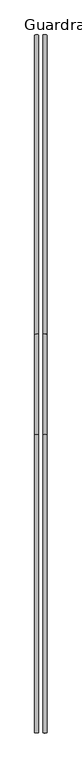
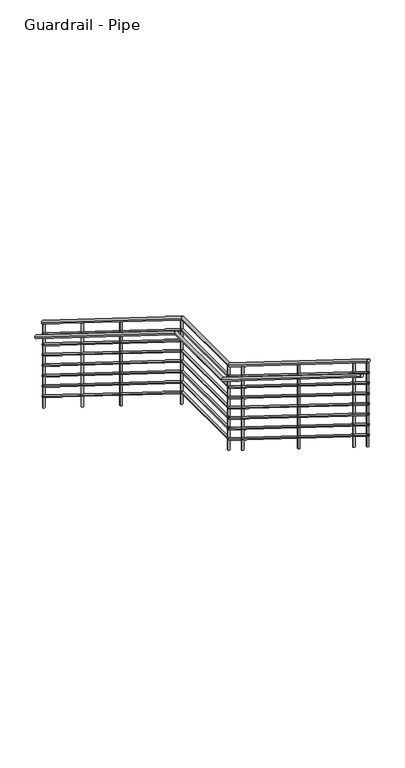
"""IFC4 building model written with IfcOpenShell, lengths in millimetres: railing geometry, Guardrail - Pipe."""

from ifc_helpers import new_model, si_unit, point, frame, frame_2d, origin, place, context, project, spatial, circle_curve, ellipse_curve, trimmed, segment, composite_curve, outline, extrude, source, transform, mapped, element, save
from ifc_brep_helpers import plane_surface, cylinder_surface, advanced_brep


def guardrail_pipe_c5471f49(model_context):
    return source(origin(), model_context, "Body", "SolidModel", [
        advanced_brep(
        [(-2187.3939612, 2884.909643, -2439.0768639), (-2225.4939612, 2884.909643, -2439.0768639), (-2187.3939612, 85.4582154, -693.9642857), (-2225.4939612, 85.4582154, -693.9642857), (-2187.3939612, -854.3417846, -693.9642857), (-2225.4939612, -854.3417846, -693.9642857), (-2187.3939612, -3642.890357, 1044.3517075), (-2225.4939612, -3642.890357, 1044.3517075)],
        [
            (0, 1, ellipse_curve(frame((-2206.4439612, 2884.909643, -2439.0768639), z_axis=(0.0, 1.0, 0.0), x_axis=(0.0, 0.0, -1.0)), 22.4482925, 19.05)),
            (1, 0, ellipse_curve(frame((-2206.4439612, 2884.909643, -2439.0768639), z_axis=(0.0, 1.0, 0.0), x_axis=(0.0, 0.0, -1.0)), 22.4482925, 19.05)),
            (0, 2),
            (2, 3, ellipse_curve(frame((-2206.4439612, 85.4582154, -693.9642857), z_axis=(0.0, 0.9614096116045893, -0.2751209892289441), x_axis=(0.0, -0.27512098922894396, -0.9614096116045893)), 19.8146552, 19.05)),
            (3, 1),
            (3, 2, ellipse_curve(frame((-2206.4439612, 85.4582154, -693.9642857), z_axis=(0.0, 0.9614096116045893, -0.2751209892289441), x_axis=(0.0, -0.27512098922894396, -0.9614096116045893)), 19.8146552, 19.05)),
            (2, 4),
            (4, 5, ellipse_curve(frame((-2206.4439612, -854.3417846, -693.9642857), z_axis=(0.0, 0.9614096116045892, -0.27512098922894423), x_axis=(0.0, 0.2751209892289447, 0.9614096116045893)), 19.8146552, 19.05)),
            (5, 3),
            (5, 4, ellipse_curve(frame((-2206.4439612, -854.3417846, -693.9642857), z_axis=(0.0, 0.9614096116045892, -0.27512098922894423), x_axis=(0.0, 0.2751209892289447, 0.9614096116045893)), 19.8146552, 19.05)),
            (6, 7, ellipse_curve(frame((-2206.4439612, -3642.890357, 1044.3517075), z_axis=(0.0, -1.0, 0.0), x_axis=(0.0, 0.0, -1.0)), 22.4482925, 19.05)),
            (7, 6, ellipse_curve(frame((-2206.4439612, -3642.890357, 1044.3517075), z_axis=(0.0, -1.0, 0.0), x_axis=(0.0, 0.0, -1.0)), 22.4482925, 19.05)),
            (4, 6),
            (7, 5),
        ],
        [
            plane_surface(frame((-2206.4439612, 2884.909643, -2416.6285714), z_axis=(0.0, 1.0, 0.0), x_axis=(0.0, 0.0, -1.0))),
            cylinder_surface(frame((-2206.4439612, 2874.832042, -2432.794723), z_axis=(0.0, 0.8486168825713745, -0.5290079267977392), x_axis=(-1.0, 0.0, 0.0)), 19.05),
            cylinder_surface(frame((-2206.4439612, 90.909643, -693.9642857), z_axis=(0.0, 1.0, 0.0), x_axis=(-1.0, 0.0, 0.0)), 19.05),
            plane_surface(frame((-2206.4439612, -3642.890357, 1066.8), z_axis=(0.0, -1.0, 0.0), x_axis=(0.0, 0.0, -1.0))),
            cylinder_surface(frame((-2206.4439612, -858.967958, -691.0804373), z_axis=(0.0, 0.8486168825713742, -0.5290079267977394), x_axis=(-1.0, 0.0, 0.0)), 19.05),
        ],
        [
            (0, [[1, 2]]),
            (1, [[-1, 3, 4, 5]]),
            (1, [[-2, -5, 6, -3]]),
            (2, [[-4, 7, 8, 9]]),
            (2, [[-6, -9, 10, -7]]),
            (3, [[11, 12]]),
            (4, [[-8, 13, -12, 14]]),
            (4, [[-10, -14, -11, -13]]),
        ],
    ),
        advanced_brep(
        [(-2193.7439612, 2884.909643, -2583.9940998), (-2219.1439612, 2884.909643, -2583.9940998), (-2193.7439612, 87.2753579, -840.0142857), (-2219.1439612, 87.2753579, -840.0142857), (-2193.7439612, -852.5246421, -840.0142857), (-2219.1439612, -852.5246421, -840.0142857), (-2193.7439612, -3642.890357, 899.4344717), (-2219.1439612, -3642.890357, 899.4344717)],
        [
            (0, 1, ellipse_curve(frame((-2206.4439612, 2884.909643, -2583.9940998), z_axis=(0.0, 1.0, 0.0), x_axis=(0.0, 0.0, -1.0)), 14.9655283, 12.7)),
            (1, 0, ellipse_curve(frame((-2206.4439612, 2884.909643, -2583.9940998), z_axis=(0.0, 1.0, 0.0), x_axis=(0.0, 0.0, -1.0)), 14.9655283, 12.7)),
            (0, 2),
            (2, 3, ellipse_curve(frame((-2206.4439612, 87.2753579, -840.0142857), z_axis=(0.0, 0.9614096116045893, -0.2751209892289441), x_axis=(0.0, -0.27512098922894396, -0.9614096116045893)), 13.2097702, 12.7)),
            (3, 1),
            (3, 2, ellipse_curve(frame((-2206.4439612, 87.2753579, -840.0142857), z_axis=(0.0, 0.9614096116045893, -0.2751209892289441), x_axis=(0.0, -0.27512098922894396, -0.9614096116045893)), 13.2097702, 12.7)),
            (2, 4),
            (4, 5, ellipse_curve(frame((-2206.4439612, -852.5246421, -840.0142857), z_axis=(0.0, 0.9614096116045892, -0.27512098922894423), x_axis=(0.0, 0.2751209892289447, 0.9614096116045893)), 13.2097702, 12.7)),
            (5, 3),
            (5, 4, ellipse_curve(frame((-2206.4439612, -852.5246421, -840.0142857), z_axis=(0.0, 0.9614096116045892, -0.27512098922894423), x_axis=(0.0, 0.2751209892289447, 0.9614096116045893)), 13.2097702, 12.7)),
            (6, 7, ellipse_curve(frame((-2206.4439612, -3642.890357, 899.4344717), z_axis=(0.0, -1.0, 0.0), x_axis=(0.0, 0.0, -1.0)), 14.9655283, 12.7)),
            (7, 6, ellipse_curve(frame((-2206.4439612, -3642.890357, 899.4344717), z_axis=(0.0, -1.0, 0.0), x_axis=(0.0, 0.0, -1.0)), 14.9655283, 12.7)),
            (4, 6),
            (7, 5),
        ],
        [
            plane_surface(frame((-2206.4439612, 2884.909643, -2569.0285714), z_axis=(0.0, 1.0, 0.0), x_axis=(0.0, 0.0, -1.0))),
            cylinder_surface(frame((-2206.4439612, 2878.1912423, -2579.8060058), z_axis=(0.0, 0.8486168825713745, -0.5290079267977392), x_axis=(-1.0, 0.0, 0.0)), 12.7),
            cylinder_surface(frame((-2206.4439612, 90.909643, -840.0142857), z_axis=(0.0, 1.0, 0.0), x_axis=(-1.0, 0.0, 0.0)), 12.7),
            plane_surface(frame((-2206.4439612, -3642.890357, 914.4), z_axis=(0.0, -1.0, 0.0), x_axis=(0.0, 0.0, -1.0))),
            cylinder_surface(frame((-2206.4439612, -855.6087577, -838.0917201), z_axis=(0.0, 0.8486168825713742, -0.5290079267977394), x_axis=(-1.0, 0.0, 0.0)), 12.7),
        ],
        [
            (0, [[1, 2]]),
            (1, [[-1, 3, 4, 5]]),
            (1, [[-2, -5, 6, -3]]),
            (2, [[-4, 7, 8, 9]]),
            (2, [[-6, -9, 10, -7]]),
            (3, [[11, 12]]),
            (4, [[-8, 13, -12, 14]]),
            (4, [[-10, -14, -11, -13]]),
        ],
    ),
        advanced_brep(
        [(-2263.5939612, 2884.909643, -2591.4768639), (-2301.6939612, 2884.909643, -2591.4768639), (-2263.5939612, 85.4582154, -846.3642857), (-2301.6939612, 85.4582154, -846.3642857), (-2263.5939612, -854.3417846, -846.3642857), (-2301.6939612, -854.3417846, -846.3642857), (-2263.5939612, -3642.890357, 891.9517075), (-2301.6939612, -3642.890357, 891.9517075)],
        [
            (0, 1, ellipse_curve(frame((-2282.6439612, 2884.909643, -2591.4768639), z_axis=(0.0, 1.0, 0.0), x_axis=(0.0, 0.0, -1.0)), 22.4482925, 19.05)),
            (1, 0, ellipse_curve(frame((-2282.6439612, 2884.909643, -2591.4768639), z_axis=(0.0, 1.0, 0.0), x_axis=(0.0, 0.0, -1.0)), 22.4482925, 19.05)),
            (0, 2),
            (2, 3, ellipse_curve(frame((-2282.6439612, 85.4582154, -846.3642857), z_axis=(0.0, 0.9614096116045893, -0.2751209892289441), x_axis=(0.0, -0.27512098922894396, -0.9614096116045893)), 19.8146552, 19.05)),
            (3, 1),
            (3, 2, ellipse_curve(frame((-2282.6439612, 85.4582154, -846.3642857), z_axis=(0.0, 0.9614096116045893, -0.2751209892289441), x_axis=(0.0, -0.27512098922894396, -0.9614096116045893)), 19.8146552, 19.05)),
            (2, 4),
            (4, 5, ellipse_curve(frame((-2282.6439612, -854.3417846, -846.3642857), z_axis=(0.0, 0.9614096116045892, -0.27512098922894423), x_axis=(0.0, 0.2751209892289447, 0.9614096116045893)), 19.8146552, 19.05)),
            (5, 3),
            (5, 4, ellipse_curve(frame((-2282.6439612, -854.3417846, -846.3642857), z_axis=(0.0, 0.9614096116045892, -0.27512098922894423), x_axis=(0.0, 0.2751209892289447, 0.9614096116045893)), 19.8146552, 19.05)),
            (6, 7, ellipse_curve(frame((-2282.6439612, -3642.890357, 891.9517075), z_axis=(0.0, -1.0, 0.0), x_axis=(0.0, 0.0, -1.0)), 22.4482925, 19.05)),
            (7, 6, ellipse_curve(frame((-2282.6439612, -3642.890357, 891.9517075), z_axis=(0.0, -1.0, 0.0), x_axis=(0.0, 0.0, -1.0)), 22.4482925, 19.05)),
            (4, 6),
            (7, 5),
        ],
        [
            plane_surface(frame((-2282.6439612, 2884.909643, -2569.0285714), z_axis=(0.0, 1.0, 0.0), x_axis=(0.0, 0.0, -1.0))),
            cylinder_surface(frame((-2282.6439612, 2874.832042, -2585.194723), z_axis=(0.0, 0.8486168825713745, -0.5290079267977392), x_axis=(-1.0, 0.0, 0.0)), 19.05),
            cylinder_surface(frame((-2282.6439612, 90.909643, -846.3642857), z_axis=(0.0, 1.0, 0.0), x_axis=(-1.0, 0.0, 0.0)), 19.05),
            plane_surface(frame((-2282.6439612, -3642.890357, 914.4), z_axis=(0.0, -1.0, 0.0), x_axis=(0.0, 0.0, -1.0))),
            cylinder_surface(frame((-2282.6439612, -858.967958, -843.4804373), z_axis=(0.0, 0.8486168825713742, -0.5290079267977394), x_axis=(-1.0, 0.0, 0.0)), 19.05),
        ],
        [
            (0, [[1, 2]]),
            (1, [[-1, 3, 4, 5]]),
            (1, [[-2, -5, 6, -3]]),
            (2, [[-4, 7, 8, 9]]),
            (2, [[-6, -9, 10, -7]]),
            (3, [[11, 12]]),
            (4, [[-8, 13, -12, 14]]),
            (4, [[-10, -14, -11, -13]]),
        ],
    ),
        advanced_brep(
        [(-2193.7439612, 2884.909643, -2710.9940998), (-2219.1439612, 2884.909643, -2710.9940998), (-2193.7439612, 87.2753579, -967.0142857), (-2219.1439612, 87.2753579, -967.0142857), (-2193.7439612, -852.5246421, -967.0142857), (-2219.1439612, -852.5246421, -967.0142857), (-2193.7439612, -3642.890357, 772.4344717), (-2219.1439612, -3642.890357, 772.4344717)],
        [
            (0, 1, ellipse_curve(frame((-2206.4439612, 2884.909643, -2710.9940998), z_axis=(0.0, 1.0, 0.0), x_axis=(0.0, 0.0, -1.0)), 14.9655283, 12.7)),
            (1, 0, ellipse_curve(frame((-2206.4439612, 2884.909643, -2710.9940998), z_axis=(0.0, 1.0, 0.0), x_axis=(0.0, 0.0, -1.0)), 14.9655283, 12.7)),
            (0, 2),
            (2, 3, ellipse_curve(frame((-2206.4439612, 87.2753579, -967.0142857), z_axis=(0.0, 0.9614096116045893, -0.2751209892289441), x_axis=(0.0, -0.27512098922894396, -0.9614096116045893)), 13.2097702, 12.7)),
            (3, 1),
            (3, 2, ellipse_curve(frame((-2206.4439612, 87.2753579, -967.0142857), z_axis=(0.0, 0.9614096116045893, -0.2751209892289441), x_axis=(0.0, -0.27512098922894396, -0.9614096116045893)), 13.2097702, 12.7)),
            (2, 4),
            (4, 5, ellipse_curve(frame((-2206.4439612, -852.5246421, -967.0142857), z_axis=(0.0, 0.9614096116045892, -0.27512098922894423), x_axis=(0.0, 0.2751209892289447, 0.9614096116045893)), 13.2097702, 12.7)),
            (5, 3),
            (5, 4, ellipse_curve(frame((-2206.4439612, -852.5246421, -967.0142857), z_axis=(0.0, 0.9614096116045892, -0.27512098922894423), x_axis=(0.0, 0.2751209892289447, 0.9614096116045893)), 13.2097702, 12.7)),
            (6, 7, ellipse_curve(frame((-2206.4439612, -3642.890357, 772.4344717), z_axis=(0.0, -1.0, 0.0), x_axis=(0.0, 0.0, -1.0)), 14.9655283, 12.7)),
            (7, 6, ellipse_curve(frame((-2206.4439612, -3642.890357, 772.4344717), z_axis=(0.0, -1.0, 0.0), x_axis=(0.0, 0.0, -1.0)), 14.9655283, 12.7)),
            (4, 6),
            (7, 5),
        ],
        [
            plane_surface(frame((-2206.4439612, 2884.909643, -2696.0285714), z_axis=(0.0, 1.0, 0.0), x_axis=(0.0, 0.0, -1.0))),
            cylinder_surface(frame((-2206.4439612, 2878.1912423, -2706.8060058), z_axis=(0.0, 0.8486168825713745, -0.5290079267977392), x_axis=(-1.0, 0.0, 0.0)), 12.7),
            cylinder_surface(frame((-2206.4439612, 90.909643, -967.0142857), z_axis=(0.0, 1.0, 0.0), x_axis=(-1.0, 0.0, 0.0)), 12.7),
            plane_surface(frame((-2206.4439612, -3642.890357, 787.4), z_axis=(0.0, -1.0, 0.0), x_axis=(0.0, 0.0, -1.0))),
            cylinder_surface(frame((-2206.4439612, -855.6087577, -965.0917201), z_axis=(0.0, 0.8486168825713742, -0.5290079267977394), x_axis=(-1.0, 0.0, 0.0)), 12.7),
        ],
        [
            (0, [[1, 2]]),
            (1, [[-1, 3, 4, 5]]),
            (1, [[-2, -5, 6, -3]]),
            (2, [[-4, 7, 8, 9]]),
            (2, [[-6, -9, 10, -7]]),
            (3, [[11, 12]]),
            (4, [[-8, 13, -12, 14]]),
            (4, [[-10, -14, -11, -13]]),
        ],
    ),
        advanced_brep(
        [(-2193.7439612, 2884.909643, -2837.9940998), (-2219.1439612, 2884.909643, -2837.9940998), (-2193.7439612, 87.2753579, -1094.0142857), (-2219.1439612, 87.2753579, -1094.0142857), (-2193.7439612, -852.5246421, -1094.0142857), (-2219.1439612, -852.5246421, -1094.0142857), (-2193.7439612, -3642.890357, 645.4344717), (-2219.1439612, -3642.890357, 645.4344717)],
        [
            (0, 1, ellipse_curve(frame((-2206.4439612, 2884.909643, -2837.9940998), z_axis=(0.0, 1.0, 0.0), x_axis=(0.0, 0.0, -1.0)), 14.9655283, 12.7)),
            (1, 0, ellipse_curve(frame((-2206.4439612, 2884.909643, -2837.9940998), z_axis=(0.0, 1.0, 0.0), x_axis=(0.0, 0.0, -1.0)), 14.9655283, 12.7)),
            (0, 2),
            (2, 3, ellipse_curve(frame((-2206.4439612, 87.2753579, -1094.0142857), z_axis=(0.0, 0.9614096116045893, -0.2751209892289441), x_axis=(0.0, -0.27512098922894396, -0.9614096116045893)), 13.2097702, 12.7)),
            (3, 1),
            (3, 2, ellipse_curve(frame((-2206.4439612, 87.2753579, -1094.0142857), z_axis=(0.0, 0.9614096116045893, -0.2751209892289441), x_axis=(0.0, -0.27512098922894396, -0.9614096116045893)), 13.2097702, 12.7)),
            (2, 4),
            (4, 5, ellipse_curve(frame((-2206.4439612, -852.5246421, -1094.0142857), z_axis=(0.0, 0.9614096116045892, -0.27512098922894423), x_axis=(0.0, 0.2751209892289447, 0.9614096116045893)), 13.2097702, 12.7)),
            (5, 3),
            (5, 4, ellipse_curve(frame((-2206.4439612, -852.5246421, -1094.0142857), z_axis=(0.0, 0.9614096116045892, -0.27512098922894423), x_axis=(0.0, 0.2751209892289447, 0.9614096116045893)), 13.2097702, 12.7)),
            (6, 7, ellipse_curve(frame((-2206.4439612, -3642.890357, 645.4344717), z_axis=(0.0, -1.0, 0.0), x_axis=(0.0, 0.0, -1.0)), 14.9655283, 12.7)),
            (7, 6, ellipse_curve(frame((-2206.4439612, -3642.890357, 645.4344717), z_axis=(0.0, -1.0, 0.0), x_axis=(0.0, 0.0, -1.0)), 14.9655283, 12.7)),
            (4, 6),
            (7, 5),
        ],
        [
            plane_surface(frame((-2206.4439612, 2884.909643, -2823.0285714), z_axis=(0.0, 1.0, 0.0), x_axis=(0.0, 0.0, -1.0))),
            cylinder_surface(frame((-2206.4439612, 2878.1912423, -2833.8060058), z_axis=(0.0, 0.8486168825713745, -0.5290079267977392), x_axis=(-1.0, 0.0, 0.0)), 12.7),
            cylinder_surface(frame((-2206.4439612, 90.909643, -1094.0142857), z_axis=(0.0, 1.0, 0.0), x_axis=(-1.0, 0.0, 0.0)), 12.7),
            plane_surface(frame((-2206.4439612, -3642.890357, 660.4), z_axis=(0.0, -1.0, 0.0), x_axis=(0.0, 0.0, -1.0))),
            cylinder_surface(frame((-2206.4439612, -855.6087577, -1092.0917201), z_axis=(0.0, 0.8486168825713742, -0.5290079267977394), x_axis=(-1.0, 0.0, 0.0)), 12.7),
        ],
        [
            (0, [[1, 2]]),
            (1, [[-1, 3, 4, 5]]),
            (1, [[-2, -5, 6, -3]]),
            (2, [[-4, 7, 8, 9]]),
            (2, [[-6, -9, 10, -7]]),
            (3, [[11, 12]]),
            (4, [[-8, 13, -12, 14]]),
            (4, [[-10, -14, -11, -13]]),
        ],
    ),
        advanced_brep(
        [(-2193.7439612, 2884.909643, -2964.9940998), (-2219.1439612, 2884.909643, -2964.9940998), (-2193.7439612, 87.2753579, -1221.0142857), (-2219.1439612, 87.2753579, -1221.0142857), (-2193.7439612, -852.5246421, -1221.0142857), (-2219.1439612, -852.5246421, -1221.0142857), (-2193.7439612, -3642.890357, 518.4344717), (-2219.1439612, -3642.890357, 518.4344717)],
        [
            (0, 1, ellipse_curve(frame((-2206.4439612, 2884.909643, -2964.9940998), z_axis=(0.0, 1.0, 0.0), x_axis=(0.0, 0.0, -1.0)), 14.9655283, 12.7)),
            (1, 0, ellipse_curve(frame((-2206.4439612, 2884.909643, -2964.9940998), z_axis=(0.0, 1.0, 0.0), x_axis=(0.0, 0.0, -1.0)), 14.9655283, 12.7)),
            (0, 2),
            (2, 3, ellipse_curve(frame((-2206.4439612, 87.2753579, -1221.0142857), z_axis=(0.0, 0.9614096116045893, -0.2751209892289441), x_axis=(0.0, -0.27512098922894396, -0.9614096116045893)), 13.2097702, 12.7)),
            (3, 1),
            (3, 2, ellipse_curve(frame((-2206.4439612, 87.2753579, -1221.0142857), z_axis=(0.0, 0.9614096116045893, -0.2751209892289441), x_axis=(0.0, -0.27512098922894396, -0.9614096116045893)), 13.2097702, 12.7)),
            (2, 4),
            (4, 5, ellipse_curve(frame((-2206.4439612, -852.5246421, -1221.0142857), z_axis=(0.0, 0.9614096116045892, -0.27512098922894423), x_axis=(0.0, 0.2751209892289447, 0.9614096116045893)), 13.2097702, 12.7)),
            (5, 3),
            (5, 4, ellipse_curve(frame((-2206.4439612, -852.5246421, -1221.0142857), z_axis=(0.0, 0.9614096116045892, -0.27512098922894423), x_axis=(0.0, 0.2751209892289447, 0.9614096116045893)), 13.2097702, 12.7)),
            (6, 7, ellipse_curve(frame((-2206.4439612, -3642.890357, 518.4344717), z_axis=(0.0, -1.0, 0.0), x_axis=(0.0, 0.0, -1.0)), 14.9655283, 12.7)),
            (7, 6, ellipse_curve(frame((-2206.4439612, -3642.890357, 518.4344717), z_axis=(0.0, -1.0, 0.0), x_axis=(0.0, 0.0, -1.0)), 14.9655283, 12.7)),
            (4, 6),
            (7, 5),
        ],
        [
            plane_surface(frame((-2206.4439612, 2884.909643, -2950.0285714), z_axis=(0.0, 1.0, 0.0), x_axis=(0.0, 0.0, -1.0))),
            cylinder_surface(frame((-2206.4439612, 2878.1912423, -2960.8060058), z_axis=(0.0, 0.8486168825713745, -0.5290079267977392), x_axis=(-1.0, 0.0, 0.0)), 12.7),
            cylinder_surface(frame((-2206.4439612, 90.909643, -1221.0142857), z_axis=(0.0, 1.0, 0.0), x_axis=(-1.0, 0.0, 0.0)), 12.7),
            plane_surface(frame((-2206.4439612, -3642.890357, 533.4), z_axis=(0.0, -1.0, 0.0), x_axis=(0.0, 0.0, -1.0))),
            cylinder_surface(frame((-2206.4439612, -855.6087577, -1219.0917201), z_axis=(0.0, 0.8486168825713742, -0.5290079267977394), x_axis=(-1.0, 0.0, 0.0)), 12.7),
        ],
        [
            (0, [[1, 2]]),
            (1, [[-1, 3, 4, 5]]),
            (1, [[-2, -5, 6, -3]]),
            (2, [[-4, 7, 8, 9]]),
            (2, [[-6, -9, 10, -7]]),
            (3, [[11, 12]]),
            (4, [[-8, 13, -12, 14]]),
            (4, [[-10, -14, -11, -13]]),
        ],
    ),
        advanced_brep(
        [(-2193.7439612, 2884.909643, -3091.9940998), (-2219.1439612, 2884.909643, -3091.9940998), (-2193.7439612, 87.2753579, -1348.0142857), (-2219.1439612, 87.2753579, -1348.0142857), (-2193.7439612, -852.5246421, -1348.0142857), (-2219.1439612, -852.5246421, -1348.0142857), (-2193.7439612, -3642.890357, 391.4344717), (-2219.1439612, -3642.890357, 391.4344717)],
        [
            (0, 1, ellipse_curve(frame((-2206.4439612, 2884.909643, -3091.9940998), z_axis=(0.0, 1.0, 0.0), x_axis=(0.0, 0.0, -1.0)), 14.9655283, 12.7)),
            (1, 0, ellipse_curve(frame((-2206.4439612, 2884.909643, -3091.9940998), z_axis=(0.0, 1.0, 0.0), x_axis=(0.0, 0.0, -1.0)), 14.9655283, 12.7)),
            (0, 2),
            (2, 3, ellipse_curve(frame((-2206.4439612, 87.2753579, -1348.0142857), z_axis=(0.0, 0.9614096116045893, -0.2751209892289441), x_axis=(0.0, -0.27512098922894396, -0.9614096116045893)), 13.2097702, 12.7)),
            (3, 1),
            (3, 2, ellipse_curve(frame((-2206.4439612, 87.2753579, -1348.0142857), z_axis=(0.0, 0.9614096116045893, -0.2751209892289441), x_axis=(0.0, -0.27512098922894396, -0.9614096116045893)), 13.2097702, 12.7)),
            (2, 4),
            (4, 5, ellipse_curve(frame((-2206.4439612, -852.5246421, -1348.0142857), z_axis=(0.0, 0.9614096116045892, -0.27512098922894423), x_axis=(0.0, 0.2751209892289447, 0.9614096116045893)), 13.2097702, 12.7)),
            (5, 3),
            (5, 4, ellipse_curve(frame((-2206.4439612, -852.5246421, -1348.0142857), z_axis=(0.0, 0.9614096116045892, -0.27512098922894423), x_axis=(0.0, 0.2751209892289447, 0.9614096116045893)), 13.2097702, 12.7)),
            (6, 7, ellipse_curve(frame((-2206.4439612, -3642.890357, 391.4344717), z_axis=(0.0, -1.0, 0.0), x_axis=(0.0, 0.0, -1.0)), 14.9655283, 12.7)),
            (7, 6, ellipse_curve(frame((-2206.4439612, -3642.890357, 391.4344717), z_axis=(0.0, -1.0, 0.0), x_axis=(0.0, 0.0, -1.0)), 14.9655283, 12.7)),
            (4, 6),
            (7, 5),
        ],
        [
            plane_surface(frame((-2206.4439612, 2884.909643, -3077.0285714), z_axis=(0.0, 1.0, 0.0), x_axis=(0.0, 0.0, -1.0))),
            cylinder_surface(frame((-2206.4439612, 2878.1912423, -3087.8060058), z_axis=(0.0, 0.8486168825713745, -0.5290079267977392), x_axis=(-1.0, 0.0, 0.0)), 12.7),
            cylinder_surface(frame((-2206.4439612, 90.909643, -1348.0142857), z_axis=(0.0, 1.0, 0.0), x_axis=(-1.0, 0.0, 0.0)), 12.7),
            plane_surface(frame((-2206.4439612, -3642.890357, 406.4), z_axis=(0.0, -1.0, 0.0), x_axis=(0.0, 0.0, -1.0))),
            cylinder_surface(frame((-2206.4439612, -855.6087577, -1346.0917201), z_axis=(0.0, 0.8486168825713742, -0.5290079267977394), x_axis=(-1.0, 0.0, 0.0)), 12.7),
        ],
        [
            (0, [[1, 2]]),
            (1, [[-1, 3, 4, 5]]),
            (1, [[-2, -5, 6, -3]]),
            (2, [[-4, 7, 8, 9]]),
            (2, [[-6, -9, 10, -7]]),
            (3, [[11, 12]]),
            (4, [[-8, 13, -12, 14]]),
            (4, [[-10, -14, -11, -13]]),
        ],
    ),
        advanced_brep(
        [(-2193.7439612, 2884.909643, -3218.9940998), (-2219.1439612, 2884.909643, -3218.9940998), (-2193.7439612, 87.2753579, -1475.0142857), (-2219.1439612, 87.2753579, -1475.0142857), (-2193.7439612, -852.5246421, -1475.0142857), (-2219.1439612, -852.5246421, -1475.0142857), (-2193.7439612, -3642.890357, 264.4344717), (-2219.1439612, -3642.890357, 264.4344717)],
        [
            (0, 1, ellipse_curve(frame((-2206.4439612, 2884.909643, -3218.9940998), z_axis=(0.0, 1.0, 0.0), x_axis=(0.0, 0.0, -1.0)), 14.9655283, 12.7)),
            (1, 0, ellipse_curve(frame((-2206.4439612, 2884.909643, -3218.9940998), z_axis=(0.0, 1.0, 0.0), x_axis=(0.0, 0.0, -1.0)), 14.9655283, 12.7)),
            (0, 2),
            (2, 3, ellipse_curve(frame((-2206.4439612, 87.2753579, -1475.0142857), z_axis=(0.0, 0.9614096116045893, -0.2751209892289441), x_axis=(0.0, -0.27512098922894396, -0.9614096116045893)), 13.2097702, 12.7)),
            (3, 1),
            (3, 2, ellipse_curve(frame((-2206.4439612, 87.2753579, -1475.0142857), z_axis=(0.0, 0.9614096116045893, -0.2751209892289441), x_axis=(0.0, -0.27512098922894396, -0.9614096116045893)), 13.2097702, 12.7)),
            (2, 4),
            (4, 5, ellipse_curve(frame((-2206.4439612, -852.5246421, -1475.0142857), z_axis=(0.0, 0.9614096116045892, -0.27512098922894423), x_axis=(0.0, 0.2751209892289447, 0.9614096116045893)), 13.2097702, 12.7)),
            (5, 3),
            (5, 4, ellipse_curve(frame((-2206.4439612, -852.5246421, -1475.0142857), z_axis=(0.0, 0.9614096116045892, -0.27512098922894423), x_axis=(0.0, 0.2751209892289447, 0.9614096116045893)), 13.2097702, 12.7)),
            (6, 7, ellipse_curve(frame((-2206.4439612, -3642.890357, 264.4344717), z_axis=(0.0, -1.0, 0.0), x_axis=(0.0, 0.0, -1.0)), 14.9655283, 12.7)),
            (7, 6, ellipse_curve(frame((-2206.4439612, -3642.890357, 264.4344717), z_axis=(0.0, -1.0, 0.0), x_axis=(0.0, 0.0, -1.0)), 14.9655283, 12.7)),
            (4, 6),
            (7, 5),
        ],
        [
            plane_surface(frame((-2206.4439612, 2884.909643, -3204.0285714), z_axis=(0.0, 1.0, 0.0), x_axis=(0.0, 0.0, -1.0))),
            cylinder_surface(frame((-2206.4439612, 2878.1912423, -3214.8060058), z_axis=(0.0, 0.8486168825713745, -0.5290079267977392), x_axis=(-1.0, 0.0, 0.0)), 12.7),
            cylinder_surface(frame((-2206.4439612, 90.909643, -1475.0142857), z_axis=(0.0, 1.0, 0.0), x_axis=(-1.0, 0.0, 0.0)), 12.7),
            plane_surface(frame((-2206.4439612, -3642.890357, 279.4), z_axis=(0.0, -1.0, 0.0), x_axis=(0.0, 0.0, -1.0))),
            cylinder_surface(frame((-2206.4439612, -855.6087577, -1473.0917201), z_axis=(0.0, 0.8486168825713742, -0.5290079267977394), x_axis=(-1.0, 0.0, 0.0)), 12.7),
        ],
        [
            (0, [[1, 2]]),
            (1, [[-1, 3, 4, 5]]),
            (1, [[-2, -5, 6, -3]]),
            (2, [[-4, 7, 8, 9]]),
            (2, [[-6, -9, 10, -7]]),
            (3, [[11, 12]]),
            (4, [[-8, 13, -12, 14]]),
            (4, [[-10, -14, -11, -13]]),
        ],
    ),
        advanced_brep(
        [(-2193.7439612, 2884.909643, -3345.9940998), (-2219.1439612, 2884.909643, -3345.9940998), (-2193.7439612, 87.2753579, -1602.0142857), (-2219.1439612, 87.2753579, -1602.0142857), (-2193.7439612, -852.5246421, -1602.0142857), (-2219.1439612, -852.5246421, -1602.0142857), (-2193.7439612, -3642.890357, 137.4344717), (-2219.1439612, -3642.890357, 137.4344717)],
        [
            (0, 1, ellipse_curve(frame((-2206.4439612, 2884.909643, -3345.9940998), z_axis=(0.0, 1.0, 0.0), x_axis=(0.0, 0.0, -1.0)), 14.9655283, 12.7)),
            (1, 0, ellipse_curve(frame((-2206.4439612, 2884.909643, -3345.9940998), z_axis=(0.0, 1.0, 0.0), x_axis=(0.0, 0.0, -1.0)), 14.9655283, 12.7)),
            (0, 2),
            (2, 3, ellipse_curve(frame((-2206.4439612, 87.2753579, -1602.0142857), z_axis=(0.0, 0.9614096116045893, -0.2751209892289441), x_axis=(0.0, -0.27512098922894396, -0.9614096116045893)), 13.2097702, 12.7)),
            (3, 1),
            (3, 2, ellipse_curve(frame((-2206.4439612, 87.2753579, -1602.0142857), z_axis=(0.0, 0.9614096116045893, -0.2751209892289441), x_axis=(0.0, -0.27512098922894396, -0.9614096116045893)), 13.2097702, 12.7)),
            (2, 4),
            (4, 5, ellipse_curve(frame((-2206.4439612, -852.5246421, -1602.0142857), z_axis=(0.0, 0.9614096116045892, -0.27512098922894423), x_axis=(0.0, 0.2751209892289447, 0.9614096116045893)), 13.2097702, 12.7)),
            (5, 3),
            (5, 4, ellipse_curve(frame((-2206.4439612, -852.5246421, -1602.0142857), z_axis=(0.0, 0.9614096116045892, -0.27512098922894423), x_axis=(0.0, 0.2751209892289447, 0.9614096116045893)), 13.2097702, 12.7)),
            (6, 7, ellipse_curve(frame((-2206.4439612, -3642.890357, 137.4344717), z_axis=(0.0, -1.0, 0.0), x_axis=(0.0, 0.0, -1.0)), 14.9655283, 12.7)),
            (7, 6, ellipse_curve(frame((-2206.4439612, -3642.890357, 137.4344717), z_axis=(0.0, -1.0, 0.0), x_axis=(0.0, 0.0, -1.0)), 14.9655283, 12.7)),
            (4, 6),
            (7, 5),
        ],
        [
            plane_surface(frame((-2206.4439612, 2884.909643, -3331.0285714), z_axis=(0.0, 1.0, 0.0), x_axis=(0.0, 0.0, -1.0))),
            cylinder_surface(frame((-2206.4439612, 2878.1912423, -3341.8060058), z_axis=(0.0, 0.8486168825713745, -0.5290079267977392), x_axis=(-1.0, 0.0, 0.0)), 12.7),
            cylinder_surface(frame((-2206.4439612, 90.909643, -1602.0142857), z_axis=(0.0, 1.0, 0.0), x_axis=(-1.0, 0.0, 0.0)), 12.7),
            plane_surface(frame((-2206.4439612, -3642.890357, 152.4), z_axis=(0.0, -1.0, 0.0), x_axis=(0.0, 0.0, -1.0))),
            cylinder_surface(frame((-2206.4439612, -855.6087577, -1600.0917201), z_axis=(0.0, 0.8486168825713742, -0.5290079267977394), x_axis=(-1.0, 0.0, 0.0)), 12.7),
        ],
        [
            (0, [[1, 2]]),
            (1, [[-1, 3, 4, 5]]),
            (1, [[-2, -5, 6, -3]]),
            (2, [[-4, 7, 8, 9]]),
            (2, [[-6, -9, 10, -7]]),
            (3, [[11, 12]]),
            (4, [[-8, 13, -12, 14]]),
            (4, [[-10, -14, -11, -13]]),
        ],
    ),
        advanced_brep(
        [(-2219.1439612, -3630.5087726, -7.7183903), (-2193.7439612, -3630.5087726, -7.7183903), (-2193.7439612, -3630.5087726, 1014.1850247), (-2219.1439612, -3630.5087726, 1014.1850247)],
        [
            (0, 1, circle_curve(frame((-2206.4439612, -3630.5087726, -7.7183903), z_axis=(0.0, 0.0, -1.0), x_axis=(1.0, 0.0, 0.0)), 12.7)),
            (1, 0, circle_curve(frame((-2206.4439612, -3630.5087726, -7.7183903), z_axis=(0.0, 0.0, -1.0), x_axis=(1.0, 0.0, 0.0)), 12.7)),
            (1, 2),
            (2, 3, ellipse_curve(frame((-2206.4439612, -3630.5087726, 1014.1850247), z_axis=(0.0, -0.5290079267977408, -0.8486168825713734), x_axis=(0.0, -0.8486168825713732, 0.5290079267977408)), 14.9655283, 12.7)),
            (3, 0),
            (3, 2, ellipse_curve(frame((-2206.4439612, -3630.5087726, 1014.1850247), z_axis=(0.0, -0.5290079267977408, -0.8486168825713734), x_axis=(0.0, -0.8486168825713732, 0.5290079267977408)), 14.9655283, 12.7)),
        ],
        [
            plane_surface(frame((-2193.7439612, -3630.5087726, -7.7183903), z_axis=(0.0, 0.0, -1.0), x_axis=(0.0, -1.0, 0.0))),
            cylinder_surface(frame((-2206.4439612, -3630.5087726, -7.7183903), z_axis=(0.0, 0.0, 1.0), x_axis=(1.0, 0.0, 0.0)), 12.7),
            plane_surface(frame((-2159.2181313, -3665.4337726, 1035.9564532), z_axis=(0.0, 0.5290079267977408, 0.8486168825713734), x_axis=(-1.0, 0.0, 0.0))),
        ],
        [
            (0, [[1, 2]]),
            (1, [[-2, 3, 4, 5]]),
            (1, [[-1, -5, 6, -3]]),
            (2, [[-4, -6]]),
        ],
    ),
        advanced_brep(
        [(-2219.1439612, -3351.1087726, -181.8898189), (-2193.7439612, -3351.1087726, -181.8898189), (-2193.7439612, -3351.1087726, 840.0135961), (-2219.1439612, -3351.1087726, 840.0135961)],
        [
            (0, 1, circle_curve(frame((-2206.4439612, -3351.1087726, -181.8898189), z_axis=(0.0, 0.0, -1.0), x_axis=(1.0, 0.0, 0.0)), 12.7)),
            (1, 0, circle_curve(frame((-2206.4439612, -3351.1087726, -181.8898189), z_axis=(0.0, 0.0, -1.0), x_axis=(1.0, 0.0, 0.0)), 12.7)),
            (1, 2),
            (2, 3, ellipse_curve(frame((-2206.4439612, -3351.1087726, 840.0135961), z_axis=(0.0, -0.5290079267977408, -0.8486168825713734), x_axis=(0.0, -0.8486168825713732, 0.5290079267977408)), 14.9655283, 12.7)),
            (3, 0),
            (3, 2, ellipse_curve(frame((-2206.4439612, -3351.1087726, 840.0135961), z_axis=(0.0, -0.5290079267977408, -0.8486168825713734), x_axis=(0.0, -0.8486168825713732, 0.5290079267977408)), 14.9655283, 12.7)),
        ],
        [
            plane_surface(frame((-2193.7439612, -3351.1087726, -181.8898189), z_axis=(0.0, 0.0, -1.0), x_axis=(0.0, -1.0, 0.0))),
            cylinder_surface(frame((-2206.4439612, -3351.1087726, -181.8898189), z_axis=(0.0, 0.0, 1.0), x_axis=(1.0, 0.0, 0.0)), 12.7),
            plane_surface(frame((-2159.2181313, -3386.0337726, 861.7850247), z_axis=(0.0, 0.5290079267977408, 0.8486168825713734), x_axis=(-1.0, 0.0, 0.0))),
        ],
        [
            (0, [[1, 2]]),
            (1, [[-2, 3, 4, 5]]),
            (1, [[-1, -5, 6, -3]]),
            (2, [[-4, -6]]),
        ],
    ),
        advanced_brep(
        [(-2219.1439612, -2245.890357, -870.8571429), (-2193.7439612, -2245.890357, -870.8571429), (-2193.7439612, -2245.890357, 151.0462721), (-2219.1439612, -2245.890357, 151.0462721)],
        [
            (0, 1, circle_curve(frame((-2206.4439612, -2245.890357, -870.8571429), z_axis=(0.0, 0.0, -1.0), x_axis=(1.0, 0.0, 0.0)), 12.7)),
            (1, 0, circle_curve(frame((-2206.4439612, -2245.890357, -870.8571429), z_axis=(0.0, 0.0, -1.0), x_axis=(1.0, 0.0, 0.0)), 12.7)),
            (1, 2),
            (2, 3, ellipse_curve(frame((-2206.4439612, -2245.890357, 151.0462721), z_axis=(0.0, -0.5290079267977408, -0.8486168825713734), x_axis=(0.0, -0.8486168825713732, 0.5290079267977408)), 14.9655283, 12.7)),
            (3, 0),
            (3, 2, ellipse_curve(frame((-2206.4439612, -2245.890357, 151.0462721), z_axis=(0.0, -0.5290079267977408, -0.8486168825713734), x_axis=(0.0, -0.8486168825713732, 0.5290079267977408)), 14.9655283, 12.7)),
        ],
        [
            plane_surface(frame((-2193.7439612, -2245.890357, -870.8571429), z_axis=(0.0, 0.0, -1.0), x_axis=(0.0, -1.0, 0.0))),
            cylinder_surface(frame((-2206.4439612, -2245.890357, -870.8571429), z_axis=(0.0, 0.0, 1.0), x_axis=(1.0, 0.0, 0.0)), 12.7),
            plane_surface(frame((-2159.2181313, -2280.815357, 172.8177007), z_axis=(0.0, 0.5290079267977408, 0.8486168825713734), x_axis=(-1.0, 0.0, 0.0))),
        ],
        [
            (0, [[1, 2]]),
            (1, [[-2, 3, 4, 5]]),
            (1, [[-1, -5, 6, -3]]),
            (2, [[-4, -6]]),
        ],
    ),
        advanced_brep(
        [(-2219.1439612, -1115.9087726, -1575.2612475), (-2193.7439612, -1115.9087726, -1575.2612475), (-2193.7439612, -1115.9087726, -553.3578325), (-2219.1439612, -1115.9087726, -553.3578325)],
        [
            (0, 1, circle_curve(frame((-2206.4439612, -1115.9087726, -1575.2612475), z_axis=(0.0, 0.0, -1.0), x_axis=(1.0, 0.0, 0.0)), 12.7)),
            (1, 0, circle_curve(frame((-2206.4439612, -1115.9087726, -1575.2612475), z_axis=(0.0, 0.0, -1.0), x_axis=(1.0, 0.0, 0.0)), 12.7)),
            (1, 2),
            (2, 3, ellipse_curve(frame((-2206.4439612, -1115.9087726, -553.3578325), z_axis=(0.0, -0.5290079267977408, -0.8486168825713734), x_axis=(0.0, -0.8486168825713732, 0.5290079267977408)), 14.9655283, 12.7)),
            (3, 0),
            (3, 2, ellipse_curve(frame((-2206.4439612, -1115.9087726, -553.3578325), z_axis=(0.0, -0.5290079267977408, -0.8486168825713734), x_axis=(0.0, -0.8486168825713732, 0.5290079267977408)), 14.9655283, 12.7)),
        ],
        [
            plane_surface(frame((-2193.7439612, -1115.9087726, -1575.2612475), z_axis=(0.0, 0.0, -1.0), x_axis=(0.0, -1.0, 0.0))),
            cylinder_surface(frame((-2206.4439612, -1115.9087726, -1575.2612475), z_axis=(0.0, 0.0, 1.0), x_axis=(1.0, 0.0, 0.0)), 12.7),
            plane_surface(frame((-2159.2181313, -1150.8337726, -531.5864039), z_axis=(0.0, 0.5290079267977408, 0.8486168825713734), x_axis=(-1.0, 0.0, 0.0))),
        ],
        [
            (0, [[1, 2]]),
            (1, [[-2, 3, 4, 5]]),
            (1, [[-1, -5, 6, -3]]),
            (2, [[-4, -6]]),
        ],
    ),
        extrude(outline(composite_curve([segment(trimmed(circle_curve(frame_2d((-2206.4439612, -836.5087726)), 12.7), [point((-2219.1439612, -836.5087726))], [point((-2193.7439612, -836.5087726))], False, "CARTESIAN"), True, "CONTINUOUS"), segment(trimmed(circle_curve(frame_2d((-2206.4439612, -836.5087726)), 12.7), [point((-2193.7439612, -836.5087726))], [point((-2219.1439612, -836.5087726))], False, "CARTESIAN"), True, "CONTINUOUS")], self_intersect=False)), frame((0.0, 0.0, -1741.7142857), z_axis=(0.0, 0.0, 1.0), x_axis=(1.0, 0.0, 0.0)), (0.0, 0.0, 1.0), 1028.7),
        advanced_brep(
        [(-2219.1439612, 103.2912274, -1749.432676), (-2193.7439612, 103.2912274, -1749.432676), (-2193.7439612, 103.2912274, -727.529261), (-2219.1439612, 103.2912274, -727.529261)],
        [
            (0, 1, circle_curve(frame((-2206.4439612, 103.2912274, -1749.432676), z_axis=(0.0, 0.0, -1.0), x_axis=(1.0, 0.0, 0.0)), 12.7)),
            (1, 0, circle_curve(frame((-2206.4439612, 103.2912274, -1749.432676), z_axis=(0.0, 0.0, -1.0), x_axis=(1.0, 0.0, 0.0)), 12.7)),
            (1, 2),
            (2, 3, ellipse_curve(frame((-2206.4439612, 103.2912274, -727.529261), z_axis=(0.0, -0.5290079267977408, -0.8486168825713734), x_axis=(0.0, -0.8486168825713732, 0.5290079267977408)), 14.9655283, 12.7)),
            (3, 0),
            (3, 2, ellipse_curve(frame((-2206.4439612, 103.2912274, -727.529261), z_axis=(0.0, -0.5290079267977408, -0.8486168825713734), x_axis=(0.0, -0.8486168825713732, 0.5290079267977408)), 14.9655283, 12.7)),
        ],
        [
            plane_surface(frame((-2193.7439612, 103.2912274, -1749.432676), z_axis=(0.0, 0.0, -1.0), x_axis=(0.0, -1.0, 0.0))),
            cylinder_surface(frame((-2206.4439612, 103.2912274, -1749.432676), z_axis=(0.0, 0.0, 1.0), x_axis=(1.0, 0.0, 0.0)), 12.7),
            plane_surface(frame((-2159.2181313, 68.3662274, -705.7578325), z_axis=(0.0, 0.5290079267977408, 0.8486168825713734), x_axis=(-1.0, 0.0, 0.0))),
        ],
        [
            (0, [[1, 2]]),
            (1, [[-2, 3, 4, 5]]),
            (1, [[-1, -5, 6, -3]]),
            (2, [[-4, -6]]),
        ],
    ),
        advanced_brep(
        [(-2219.1439612, 1322.4912274, -2509.4534553), (-2193.7439612, 1322.4912274, -2509.4534553), (-2193.7439612, 1322.4912274, -1487.5500403), (-2219.1439612, 1322.4912274, -1487.5500403)],
        [
            (0, 1, circle_curve(frame((-2206.4439612, 1322.4912274, -2509.4534553), z_axis=(0.0, 0.0, -1.0), x_axis=(1.0, 0.0, 0.0)), 12.7)),
            (1, 0, circle_curve(frame((-2206.4439612, 1322.4912274, -2509.4534553), z_axis=(0.0, 0.0, -1.0), x_axis=(1.0, 0.0, 0.0)), 12.7)),
            (1, 2),
            (2, 3, ellipse_curve(frame((-2206.4439612, 1322.4912274, -1487.5500403), z_axis=(0.0, -0.5290079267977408, -0.8486168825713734), x_axis=(0.0, -0.8486168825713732, 0.5290079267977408)), 14.9655283, 12.7)),
            (3, 0),
            (3, 2, ellipse_curve(frame((-2206.4439612, 1322.4912274, -1487.5500403), z_axis=(0.0, -0.5290079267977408, -0.8486168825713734), x_axis=(0.0, -0.8486168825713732, 0.5290079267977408)), 14.9655283, 12.7)),
        ],
        [
            plane_surface(frame((-2193.7439612, 1322.4912274, -2509.4534553), z_axis=(0.0, 0.0, -1.0), x_axis=(0.0, -1.0, 0.0))),
            cylinder_surface(frame((-2206.4439612, 1322.4912274, -2509.4534553), z_axis=(0.0, 0.0, 1.0), x_axis=(1.0, 0.0, 0.0)), 12.7),
            plane_surface(frame((-2159.2181313, 1287.5662274, -1465.7786117), z_axis=(0.0, 0.5290079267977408, 0.8486168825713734), x_axis=(-1.0, 0.0, 0.0))),
        ],
        [
            (0, [[1, 2]]),
            (1, [[-2, 3, 4, 5]]),
            (1, [[-1, -5, 6, -3]]),
            (2, [[-4, -6]]),
        ],
    ),
        advanced_brep(
        [(-2219.1439612, 2097.509643, -2992.5818182), (-2193.7439612, 2097.509643, -2992.5818182), (-2193.7439612, 2097.509643, -1970.6784032), (-2219.1439612, 2097.509643, -1970.6784032)],
        [
            (0, 1, circle_curve(frame((-2206.4439612, 2097.509643, -2992.5818182), z_axis=(0.0, 0.0, -1.0), x_axis=(1.0, 0.0, 0.0)), 12.7)),
            (1, 0, circle_curve(frame((-2206.4439612, 2097.509643, -2992.5818182), z_axis=(0.0, 0.0, -1.0), x_axis=(1.0, 0.0, 0.0)), 12.7)),
            (1, 2),
            (2, 3, ellipse_curve(frame((-2206.4439612, 2097.509643, -1970.6784032), z_axis=(0.0, -0.5290079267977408, -0.8486168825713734), x_axis=(0.0, -0.8486168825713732, 0.5290079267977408)), 14.9655283, 12.7)),
            (3, 0),
            (3, 2, ellipse_curve(frame((-2206.4439612, 2097.509643, -1970.6784032), z_axis=(0.0, -0.5290079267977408, -0.8486168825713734), x_axis=(0.0, -0.8486168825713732, 0.5290079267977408)), 14.9655283, 12.7)),
        ],
        [
            plane_surface(frame((-2193.7439612, 2097.509643, -2992.5818182), z_axis=(0.0, 0.0, -1.0), x_axis=(0.0, -1.0, 0.0))),
            cylinder_surface(frame((-2206.4439612, 2097.509643, -2992.5818182), z_axis=(0.0, 0.0, 1.0), x_axis=(1.0, 0.0, 0.0)), 12.7),
            plane_surface(frame((-2159.2181313, 2062.584643, -1948.9069746), z_axis=(0.0, 0.5290079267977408, 0.8486168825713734), x_axis=(-1.0, 0.0, 0.0))),
        ],
        [
            (0, [[1, 2]]),
            (1, [[-2, 3, 4, 5]]),
            (1, [[-1, -5, 6, -3]]),
            (2, [[-4, -6]]),
        ],
    ),
        advanced_brep(
        [(-2219.1439612, 2872.5280585, -3475.7101811), (-2193.7439612, 2872.5280585, -3475.7101811), (-2193.7439612, 2872.5280585, -2453.8067661), (-2219.1439612, 2872.5280585, -2453.8067661)],
        [
            (0, 1, circle_curve(frame((-2206.4439612, 2872.5280585, -3475.7101811), z_axis=(0.0, 0.0, -1.0), x_axis=(1.0, 0.0, 0.0)), 12.7)),
            (1, 0, circle_curve(frame((-2206.4439612, 2872.5280585, -3475.7101811), z_axis=(0.0, 0.0, -1.0), x_axis=(1.0, 0.0, 0.0)), 12.7)),
            (1, 2),
            (2, 3, ellipse_curve(frame((-2206.4439612, 2872.5280585, -2453.8067661), z_axis=(0.0, -0.5290079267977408, -0.8486168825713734), x_axis=(0.0, -0.8486168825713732, 0.5290079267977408)), 14.9655283, 12.7)),
            (3, 0),
            (3, 2, ellipse_curve(frame((-2206.4439612, 2872.5280585, -2453.8067661), z_axis=(0.0, -0.5290079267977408, -0.8486168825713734), x_axis=(0.0, -0.8486168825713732, 0.5290079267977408)), 14.9655283, 12.7)),
        ],
        [
            plane_surface(frame((-2193.7439612, 2872.5280585, -3475.7101811), z_axis=(0.0, 0.0, -1.0), x_axis=(0.0, -1.0, 0.0))),
            cylinder_surface(frame((-2206.4439612, 2872.5280585, -3475.7101811), z_axis=(0.0, 0.0, 1.0), x_axis=(1.0, 0.0, 0.0)), 12.7),
            plane_surface(frame((-2159.2181313, 2837.6030585, -2432.0353375), z_axis=(0.0, 0.5290079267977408, 0.8486168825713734), x_axis=(-1.0, 0.0, 0.0))),
        ],
        [
            (0, [[1, 2]]),
            (1, [[-2, 3, 4, 5]]),
            (1, [[-1, -5, 6, -3]]),
            (2, [[-4, -6]]),
        ],
    ),
    ])


if __name__ == "__main__":
    model = new_model("IFC4")
    model_context = context("Model", 3, world=origin())
    ifc_project = project(units=[si_unit("LENGTHUNIT", "METRE", prefix="MILLI")], contexts=[model_context])
    site = spatial("IfcSite", under=ifc_project)
    building = spatial("IfcBuilding", under=site)
    placement = place(None, origin())
    guardrail_pipe_shape = guardrail_pipe_c5471f49(model_context)
    element("IfcRailing", 1, ObjectType="Guardrail - Pipe", at=placement, inside=building, context=model_context, shape_type="MappedRepresentation", body=[
        mapped(guardrail_pipe_shape, transform((0.0, 0.0, 0.0), x_axis=(1.0, 0.0, 0.0), y_axis=(0.0, 1.0, 0.0), z_axis=(0.0, 0.0, 1.0))),
    ])
    save(model, "model.ifc")
